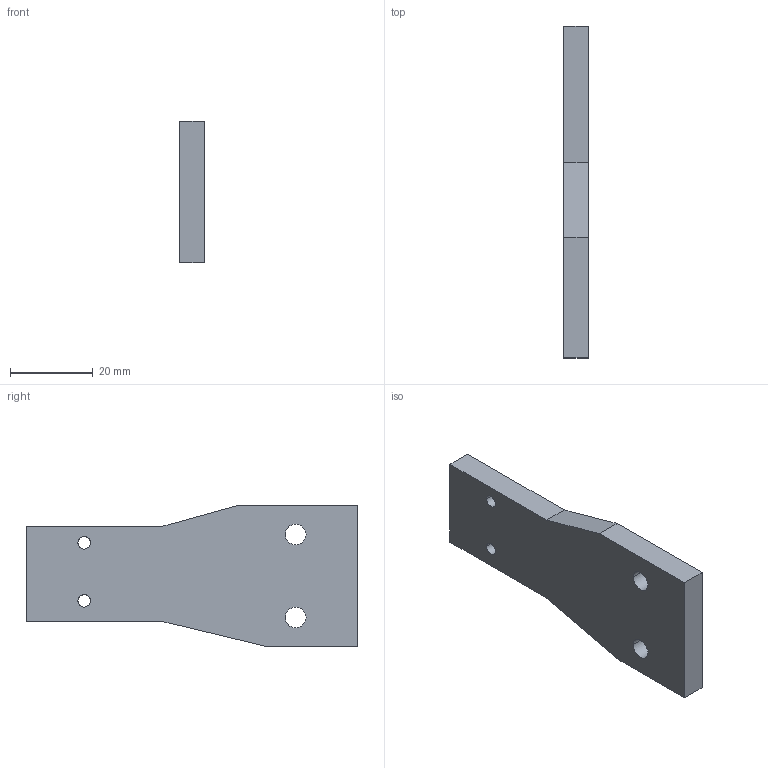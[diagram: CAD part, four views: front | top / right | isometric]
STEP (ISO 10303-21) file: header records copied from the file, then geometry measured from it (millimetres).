
FILE_DESCRIPTION(/* description */ (''),/* implementation_level */ '2;1');
FILE_NAME(/* name */ '6.y-drive#6.12#la-mpk-14',/* time_stamp */ '2014-12-01T20:16:47+01:00',/* author */ (''),/* organization */ (''),/* preprocessor_version */ 'ST-DEVELOPER v14',/* originating_system */ '',/* authorisation */ '');
FILE_SCHEMA (('AUTOMOTIVE_DESIGN'));
Length unit declared in the file: millimetre
Products named in the file (1): Document
Bounding box: 6 x 80 x 34 mm (x, y, z)
Volume: 13100.6 mm3; surface area: 5978.9 mm2
Topology: 1 solids, 1 shells, 18 faces, 48 edges, 32 vertices
Faces by surface type: plane 9, bspline 9
Entity records: 1227 total; most frequent: CARTESIAN_POINT 575, B_SPLINE_CURVE_WITH_KNOTS 104, ORIENTED_EDGE 96, PCURVE 96, DEFINITIONAL_REPRESENTATION 96, SURFACE_CURVE 48, EDGE_CURVE 48, VERTEX_POINT 32
